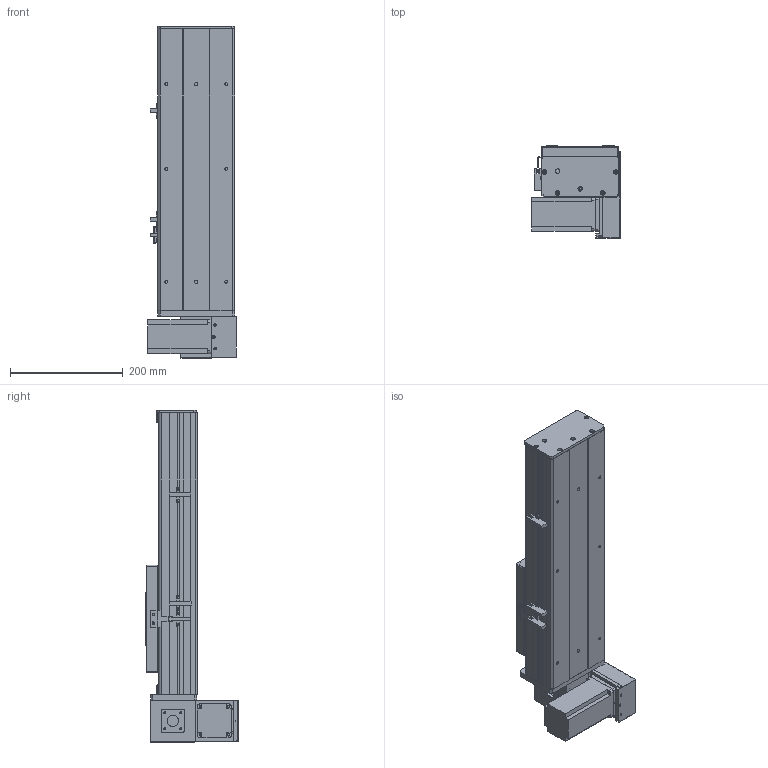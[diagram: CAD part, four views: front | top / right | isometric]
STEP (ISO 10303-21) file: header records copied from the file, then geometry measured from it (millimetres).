
FILE_DESCRIPTION (( 'STEP AP203' ), '1' );
FILE_NAME ('Y135CB-D90-S200-BM-P400W.STEP', '2020-02-18T09:07:16', ( '微软用户' ), ( '微软中国' ), 'SwSTEP 2.0', 'SolidWorks 2017', '' );
FILE_SCHEMA (( 'CONFIG_CONTROL_DESIGN' ));
Length unit declared in the file: millimetre
Products named in the file (18): Y10B-耜蚾蟀諉啣----; C-詩湍揤踡え-陔; Y135CB-耜裔; Y135CB-D90-S200-BM-P400W; 135CB--詩湍-CE; 135CB---遴掛极.-; Y100-135俋离換覜ん--; 35CB---喘謫眊楊擘啣; Y135C-陔俋离換覜結え-; 0B-埴倛裔啣; 5C--俋欶; 0B-源倛裔啣; C-雄赽釱--; 0B-萇儂楊擘啣; Y10B--々湍喘謫眊--666; san松下电机400不带刹车----; 00B-俋欶BM--; 5CB --掛极耜裔啣-
Assembly tree (21 placements, depth 2):
  Y135CB-D90-S200-BM-P400W
    Y135CB-耜裔
    135CB---遴掛极.-
    35CB---喘謫眊楊擘啣
    0B-埴倛裔啣
    0B-源倛裔啣
    0B-萇儂楊擘啣
    san松下电机400不带刹车----
    5CB --掛极耜裔啣-  x2
    C-詩湍揤踡え-陔  x2
    135CB--詩湍-CE
    Y100-135俋离換覜ん--  x3
    Y135C-陔俋离換覜結え-
    5C--俋欶
    C-雄赽釱--
    Y10B--々湍喘謫眊--666
    00B-俋欶BM--
    Y10B-耜蚾蟀諉啣----
Bounding box: 157 x 163.3 x 588 mm (x, y, z)
Volume: 2308923.7 mm3; surface area: 882202.2 mm2
Topology: 21 solids, 21 shells, 929 faces, 2455 edges, 1626 vertices
Faces by surface type: cylinder 457, plane 456, cone 16
Entity records: 28541 total; most frequent: DIRECTION 4739, CARTESIAN_POINT 4636, ORIENTED_EDGE 4386, EDGE_CURVE 2193, AXIS2_PLACEMENT_3D 1721, VERTEX_POINT 1454, VECTOR 1297, LINE 1297
